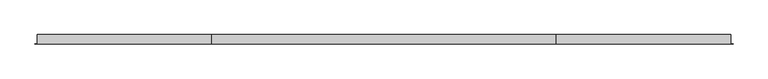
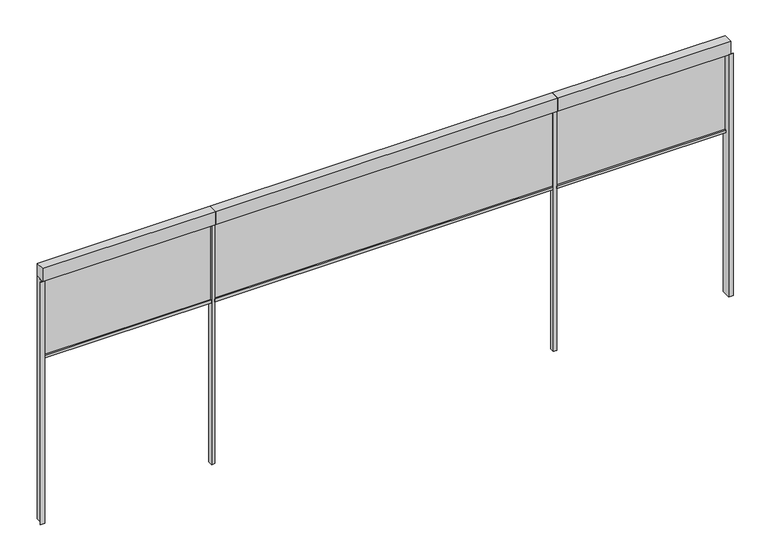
"""IFC4 building model written with IfcOpenShell, lengths in millimetres: proxy geometry, Renson_Fixscreen_Minimal_IM7B_With_CF : Recessed - Front of the window - Medium-CF - Access downwards - Fabric away from the window."""

from ifc_helpers import new_model, si_unit, frame, origin, place, context, project, spatial, polyline, outline, extrude, source, transform, mapped, element, save


def generic_models_e1c06c38(model_context):
    return source(origin(), model_context, "Body", "SweptSolid", [
        extrude(outline(polyline([(-1874.95, 49.0), (-1874.95, 52.0), (107.75, 52.0), (107.75, 49.0), (-1874.95, 49.0)])), frame((0.0, 0.0, 2812.5006852), z_axis=(0.0, 0.0, 1.0), x_axis=(1.0, 0.0, 0.0)), (0.0, 0.0, 1.0), 987.4993148),
        extrude(outline(polyline([(144.35, 49.0), (144.35, 52.0), (4107.75, 52.0), (4107.75, 49.0), (144.35, 49.0)])), frame((0.0, 0.0, 2812.5006852), z_axis=(0.0, 0.0, 1.0), x_axis=(1.0, 0.0, 0.0)), (0.0, 0.0, 1.0), 987.4993148),
        extrude(outline(polyline([(70.95, 2800.0), (30.45, 2800.0), (30.45, 2834.1156799), (47.85, 2835.0275753), (47.85, 2812.5006852), (53.55, 2812.5006852), (53.55, 2835.0275753), (70.95, 2834.1156799), (70.95, 2800.0)])), frame((-1874.95, 0.0, 0.0), z_axis=(1.0, 0.0, 0.0), x_axis=(0.0, 1.0, 0.0)), (0.0, 0.0, 1.0), 1982.7),
        extrude(outline(polyline([(70.95, 2800.0), (30.45, 2800.0), (30.45, 2834.1156799), (47.85, 2835.0275753), (47.85, 2812.5006852), (53.55, 2812.5006852), (53.55, 2835.0275753), (70.95, 2834.1156799), (70.95, 2800.0)])), frame((144.35, 0.0, 0.0), z_axis=(1.0, 0.0, 0.0), x_axis=(0.0, 1.0, 0.0)), (0.0, 0.0, 1.0), 3963.4),
        extrude(outline(polyline([(70.9955279, 2800.0), (30.4955279, 2800.0), (30.4955279, 2834.1156799), (47.8955279, 2835.0275753), (47.8955279, 2812.5006852), (53.5955279, 2812.5006852), (53.5955279, 2835.0275753), (70.9955279, 2834.1156799), (70.9955279, 2800.0)])), frame((4144.3, 0.0, 0.0), z_axis=(1.0, 0.0, 0.0), x_axis=(0.0, 1.0, 0.0)), (0.0, 0.0, 1.0), 1982.7),
        extrude(outline(polyline([(4144.3, 49.0), (4144.3, 52.0), (6127.0, 52.0), (6127.0, 49.0), (4144.3, 49.0)])), frame((0.0, 0.0, 2812.5006852), z_axis=(0.0, 0.0, 1.0), x_axis=(1.0, 0.0, 0.0)), (0.0, 0.0, 1.0), 987.4993148),
        extrude(outline(polyline([(-1899.0, 85.0), (-1875.0, 85.0), (-1875.0, -25.0), (-1925.9999912, -25.0), (-1925.9999912, -21.0), (-1899.0, -21.0), (-1899.0, 85.0)])), frame((0.0, 0.0, 800.0), z_axis=(0.0, 0.0, 1.0), x_axis=(1.0, 0.0, 0.0)), (0.0, 0.0, 1.0), 3000.0),
        extrude(outline(polyline([(6127.0, -25.0), (6127.0, 85.0), (6151.0, 85.0), (6151.0, -21.0), (6178.0, -21.0), (6178.0, -25.0), (6127.0, -25.0)])), frame((0.0, 0.0, 800.0), z_axis=(0.0, 0.0, 1.0), x_axis=(1.0, 0.0, 0.0)), (0.0, 0.0, 1.0), 3000.0),
        extrude(outline(polyline([(4126.0, -25.0), (4126.0, 85.0), (6151.0, 85.0), (6151.0, -25.0), (4126.0, -25.0)])), frame((0.0, 0.0, 3800.0), z_axis=(0.0, 0.0, 1.0), x_axis=(1.0, 0.0, 0.0)), (0.0, 0.0, 1.0), 160.0),
        extrude(outline(polyline([(126.0, -25.0), (126.0, 85.0), (4126.0, 85.0), (4126.0, -25.0), (126.0, -25.0)])), frame((0.0, 0.0, 3800.0), z_axis=(0.0, 0.0, 1.0), x_axis=(1.0, 0.0, 0.0)), (0.0, 0.0, 1.0), 160.0),
        extrude(outline(polyline([(-1899.0, -25.0), (-1899.0, 85.0), (126.0, 85.0), (126.0, -25.0), (-1899.0, -25.0)])), frame((0.0, 0.0, 3800.0), z_axis=(0.0, 0.0, 1.0), x_axis=(1.0, 0.0, 0.0)), (0.0, 0.0, 1.0), 160.0),
        extrude(outline(polyline([(144.25, 85.0), (144.25, 28.75), (107.75, 28.75), (107.75, 85.0), (144.25, 85.0)])), frame((0.0, 0.0, 800.0), z_axis=(0.0, 0.0, 1.0), x_axis=(1.0, 0.0, 0.0)), (0.0, 0.0, 1.0), 3000.0),
        extrude(outline(polyline([(4144.25, 85.0), (4144.25, 28.75), (4107.75, 28.75), (4107.75, 85.0), (4144.25, 85.0)])), frame((0.0, 0.0, 800.0), z_axis=(0.0, 0.0, 1.0), x_axis=(1.0, 0.0, 0.0)), (0.0, 0.0, 1.0), 3000.0),
    ])


if __name__ == "__main__":
    model = new_model("IFC4")
    model_context = context("Model", 3, world=origin())
    ifc_project = project(units=[si_unit("LENGTHUNIT", "METRE", prefix="MILLI")], contexts=[model_context])
    site = spatial("IfcSite", under=ifc_project)
    building = spatial("IfcBuilding", under=site)
    placement = place(None, origin())
    generic_models_shape = generic_models_e1c06c38(model_context)
    element("IfcBuildingElementProxy", 1, Name="Renson_Fixscreen_Minimal_IM7B_With_CF : Recessed - Front of the window - Medium-CF - Access downwards - Fabric away from the window", ObjectType="Renson_Fixscreen_Minimal_IM7B_With_CF : Recessed - Front of the window - Medium-CF - Access downwards - Fabric away from the window", at=placement, inside=building, context=model_context, shape_type="MappedRepresentation", body=[
        mapped(generic_models_shape, transform((0.0, 0.0, 0.0), x_axis=(1.0, 0.0, 0.0), y_axis=(0.0, 1.0, 0.0), z_axis=(0.0, 0.0, 1.0))),
    ])
    save(model, "model.ifc")
